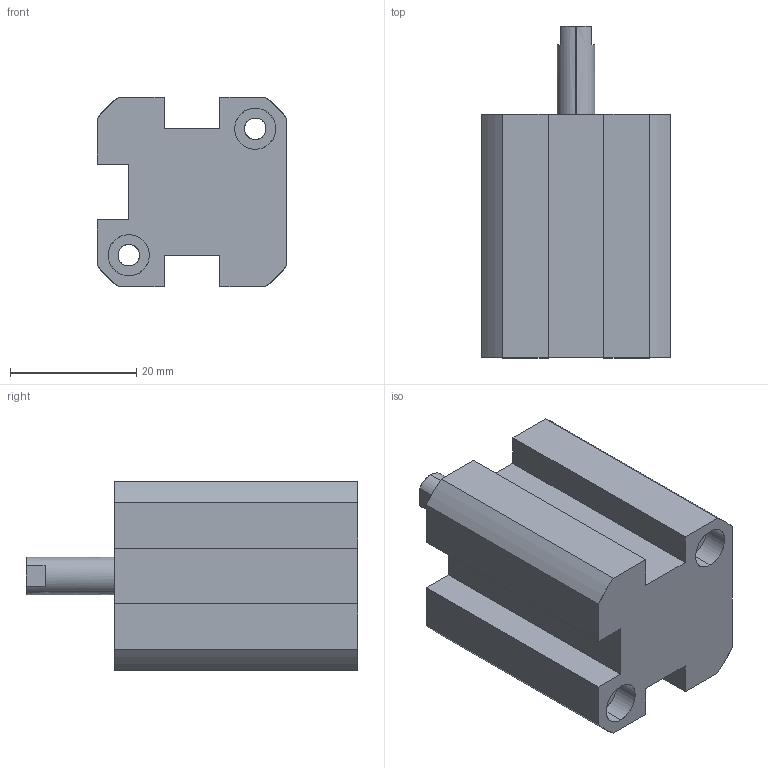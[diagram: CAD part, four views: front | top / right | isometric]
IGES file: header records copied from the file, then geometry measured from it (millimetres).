
Start section: SolidWorks IGES file using analytic representation for surfaces
Global section: file name: C:\Users\Toshiba\Desktop\XG#0-16-10.IGS; native system: SolidWorks 2014; preprocessor: SolidWorks 2014; author: Toshiba; date: 160524.092937; units: millimetre
Bounding box: 30 x 52.5 x 30 mm (x, y, z)
Surface area: 8579.1 mm2 (no closed solid volume)
Topology: 0 solids, 0 shells, 73 faces, 1123 edges, 1119 vertices
Faces by surface type: revolution 41, bspline 32
